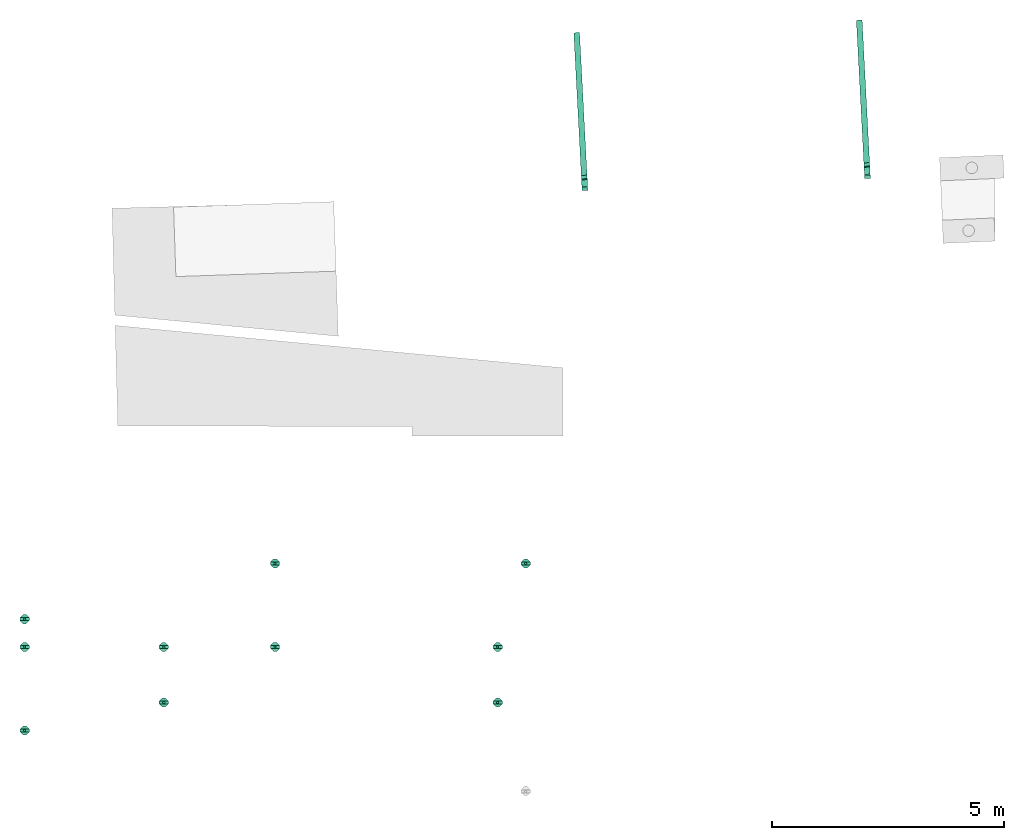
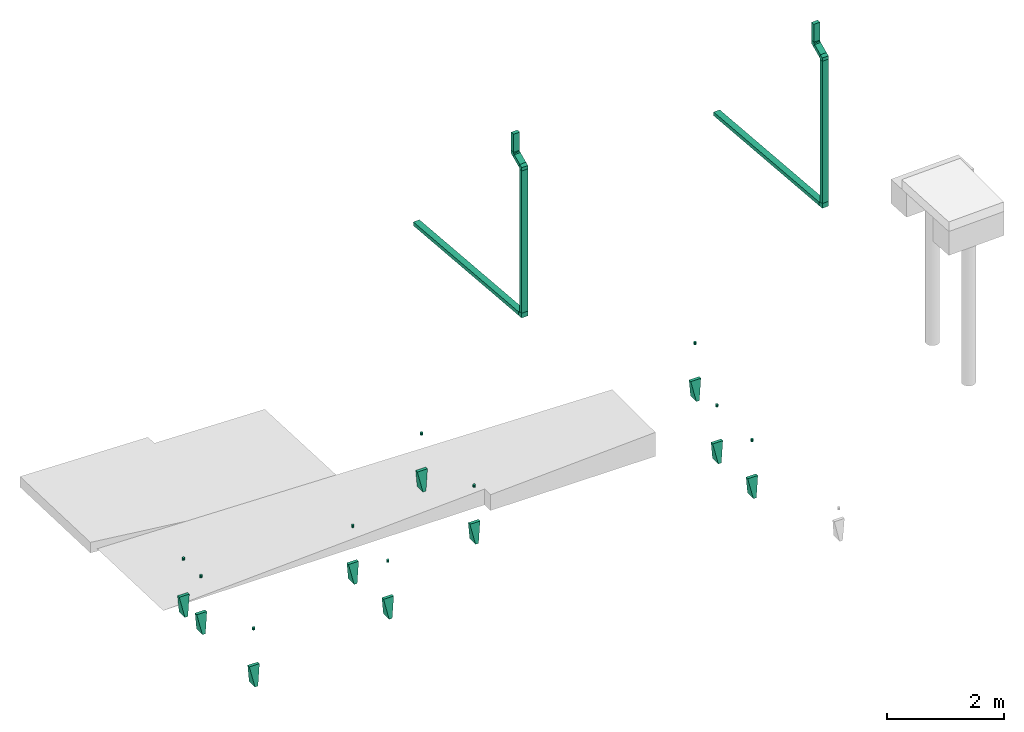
# One storey, part 3 of 4: 10 flow terminals, 8 flow segments, 6 flow fittings.
"""IFC2X3 building model written with IfcOpenShell, lengths in metres."""

from ifc_helpers import new_model, entity, si_unit, converted_unit, derived_unit, direction, frame, frame_2d, origin, origin_2d_with_axis, place, context, subcontext, project, spatial, polyline, rectangle, outline, extrude, faceted_brep, source, transform, mapped, material, type_object, type_shapes, element, save


model = new_model("IFC2X3")

# Units and contexts
model_context = context("Model", 3, precision=1e-05, world=origin(), true_north=direction((6.123031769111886e-17, 1.0)))
body_context = subcontext(model_context, "Body", "Model", "MODEL_VIEW")
ifc_project = project(units=[si_unit("LENGTHUNIT", "METRE"), si_unit("AREAUNIT", "SQUARE_METRE"), converted_unit("PLANEANGLEUNIT", "DEGREE", entity("IfcPlaneAngleMeasure", 0.017453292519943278), si_unit("PLANEANGLEUNIT", "RADIAN"), dimensions=[0, 0, 0, 0, 0, 0, 0]), derived_unit("THERMALTRANSMITTANCEUNIT", [(si_unit("MASSUNIT", "GRAM", prefix="KILO"), 1), (si_unit("THERMODYNAMICTEMPERATUREUNIT", "KELVIN"), -1), (si_unit("TIMEUNIT", "SECOND"), -3)])], contexts=[model_context])

# Site, building, storey
site_placement = place(None, origin())
site = spatial("IfcSite", under=ifc_project, at=site_placement, Name="Default", CompositionType="ELEMENT")
building_placement = place(site_placement, origin())
building = spatial("IfcBuilding", under=site, at=building_placement, CompositionType="ELEMENT")
storey_placement = place(building_placement, frame((0.0, 0.0, -4.0)))
storey = spatial("IfcBuildingStorey", under=building, at=storey_placement, Name="Fondations", CompositionType="ELEMENT", Elevation=-3.999999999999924)

# Flow terminals
ifc_material_1 = material(Name="ARC - Eq Elec - Blanc")
light_fixture_type = type_object("IfcLightFixtureType", Name="Eq_Elec_Luminaire_Trapezoïdal_LED_Suspension:Eq_Elec_Luminaire_Trapezoïdal_LED_Suspension_200x60mm", PredefinedType="NOTDEFINED", material=ifc_material_1)
shared_shape_1 = source(origin(), body_context, "Body", "Brep", [
    faceted_brep([(0.09500000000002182, -0.02500000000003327, 0.7900000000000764), (-0.09499999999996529, -0.025000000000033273, 0.7900000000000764), (-0.02499999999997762, -0.09500000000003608, 1.1800000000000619), (0.025000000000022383, -0.09500000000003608, 1.1800000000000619), (-0.09499999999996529, 0.02499999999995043, 0.7900000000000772), (-0.024999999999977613, 0.09499999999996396, 1.1800000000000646), (0.1000000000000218, 0.029999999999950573, 0.7800000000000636), (0.1000000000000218, -0.03000000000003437, 0.7800000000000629), (-0.09999999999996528, -0.03000000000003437, 0.7800000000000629), (-0.09999999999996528, 0.029999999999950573, 0.7800000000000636), (0.025000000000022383, 0.09499999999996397, 1.1800000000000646), (0.03000000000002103, 0.09999999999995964, 1.1800000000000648), (-0.029999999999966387, 0.09999999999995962, 1.1800000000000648), (-0.029999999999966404, -0.10000000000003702, 1.180000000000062), (0.03000000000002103, -0.10000000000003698, 1.1800000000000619), (0.09500000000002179, 0.02499999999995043, 0.7900000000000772)], [[[0, 1, 2, 3]], [[1, 4, 5, 2]], [[6, 7, 8, 9]], [[2, 5, 10, 3], [11, 12, 13, 14]], [[12, 11, 6, 9]], [[13, 12, 9, 8]], [[14, 13, 8, 7]], [[11, 14, 7, 6]], [[4, 1, 0, 15]], [[15, 0, 3, 10]], [[4, 15, 10, 5]]], outer=[[True], [True], [True], [False, True], [True], [True], [True], [True], [True], [True], [True]]),
    faceted_brep([(0.0, 0.0, 0.050000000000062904), (-0.007725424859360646, 0.02377641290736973, 0.05000000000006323), (-0.013975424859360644, 0.019235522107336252, 0.05000000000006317), (-0.020225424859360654, 0.01469463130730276, 0.050000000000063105), (-0.022612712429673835, 0.007347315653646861, 0.05000000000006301), (-0.02499999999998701, 0.0, 0.050000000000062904), (-0.022684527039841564, -0.007126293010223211, 0.050000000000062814), (0.0, 0.023776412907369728, 0.05000000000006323), (0.007725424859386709, 0.023776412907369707, 0.05000000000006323), (0.013975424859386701, 0.0192355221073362, 0.05000000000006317), (0.02022542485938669, 0.014694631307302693, 0.050000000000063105), (0.022612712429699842, 0.007347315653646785, 0.05000000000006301), (0.025000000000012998, 0.0, 0.050000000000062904), (-0.020225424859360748, -0.014694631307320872, 0.0500000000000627), (-0.013975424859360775, -0.0192355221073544, 0.05000000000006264), (-0.007725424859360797, -0.023776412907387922, 0.05000000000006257), (0.0, -0.023776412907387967, 0.05000000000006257), (0.02261271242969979, -0.007347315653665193, 0.0500000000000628), (0.020225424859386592, -0.014694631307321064, 0.0500000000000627), (0.013975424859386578, -0.019235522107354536, 0.05000000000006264), (0.007725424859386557, -0.023776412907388, 0.05000000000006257), (0.0, 0.0, 0.0), (-0.020225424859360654, 0.01469463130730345, 0.0), (-0.013975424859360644, 0.019235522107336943, 0.0), (-0.007725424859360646, 0.023776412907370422, 0.0), (0.0, 0.023776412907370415, 0.0), (-0.02268452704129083, 0.007126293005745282, 0.0), (-0.02499999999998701, 0.0, 0.0), (0.007725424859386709, 0.023776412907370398, 0.0), (0.013975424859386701, 0.01923552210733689, 0.0), (0.02022542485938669, 0.014694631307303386, 0.0), (0.022612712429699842, 0.007347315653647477, 0.0), (0.025000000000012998, 0.0, 0.0), (0.022684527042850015, -0.007126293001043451, 0.0), (-0.022612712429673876, -0.007347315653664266, 0.0), (-0.020225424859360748, -0.01469463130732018, 0.0), (-0.013975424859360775, -0.019235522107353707, 0.0), (-0.007725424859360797, -0.02377641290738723, 0.0), (0.020225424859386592, -0.014694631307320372, 0.0), (0.013975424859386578, -0.019235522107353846, 0.0), (0.007725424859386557, -0.023776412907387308, 0.0), (0.0, -0.023776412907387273, 0.0)], [[[0, 1, 2]], [[0, 2, 3]], [[0, 3, 4]], [[0, 4, 5]], [[0, 5, 6]], [[0, 7, 1]], [[0, 8, 7]], [[0, 9, 8]], [[0, 10, 9]], [[0, 11, 10]], [[0, 12, 11]], [[0, 6, 13]], [[0, 13, 14]], [[0, 14, 15]], [[0, 15, 16]], [[0, 17, 12]], [[0, 18, 17]], [[0, 19, 18]], [[0, 20, 19]], [[0, 16, 20]], [[21, 22, 23]], [[21, 23, 24]], [[21, 24, 25]], [[21, 26, 22]], [[21, 27, 26]], [[21, 25, 28]], [[21, 28, 29]], [[21, 29, 30]], [[21, 30, 31]], [[21, 31, 32]], [[21, 32, 33]], [[21, 34, 27]], [[21, 35, 34]], [[21, 36, 35]], [[21, 37, 36]], [[21, 33, 38]], [[21, 38, 39]], [[21, 39, 40]], [[21, 40, 41]], [[21, 41, 37]], [[8, 9, 10, 30, 29, 28]], [[12, 32, 31, 30, 10, 11]], [[1, 7, 8, 28, 25, 24]], [[4, 3, 22, 26, 27, 5]], [[24, 23, 22, 3, 2, 1]], [[13, 6, 5, 27, 34, 35]], [[33, 32, 12, 17, 18, 38]], [[35, 36, 37, 15, 14, 13]], [[20, 16, 15, 37, 41, 40]], [[40, 39, 38, 18, 19, 20]]]),
])
type_shapes(light_fixture_type, [shared_shape_1])
for number, where, z_axis, x_axis in (
    (1, (12.999283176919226, 139.39021605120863, 7.840000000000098), (0.0, 0.0, -1.0), (1.0, 0.0, 0.0)),
    (2, (12.999283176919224, 140.5902160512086, 7.840000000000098), (0.0, 0.0, -1.0), (1.0, 0.0, 0.0)),
    (3, (15.399283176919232, 140.5902160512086, 7.840000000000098), (0.0, 0.0, -1.0), (1.0, 0.0, 0.0)),
    (4, (15.399283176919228, 142.3902160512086, 7.840000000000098), (0.0, 0.0, -1.0), (1.0, 0.0, 0.0)),
    (5, (9.999283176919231, 140.5902160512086, 7.840000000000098), (0.0, 0.0, -1.0), (1.0, 0.0, 0.0)),
    (6, (9.999283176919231, 141.1902160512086, 7.840000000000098), (0.0, 0.0, -1.0), (1.0, 0.0, 0.0)),
    (7, (9.999283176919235, 138.7902160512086, 7.840000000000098), (0.0, 0.0, -1.0), (1.0, 0.0, 0.0)),
    (8, (20.19928317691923, 139.39021605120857, 7.840000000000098), (0.0, 0.0, -1.0), (1.0, 0.0, 0.0)),
    (9, (20.19928317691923, 140.59021605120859, 7.840000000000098), (0.0, 0.0, -1.0), (1.0, 0.0, 0.0)),
    (10, (20.80428317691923, 142.39021605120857, 7.840000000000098), (0.0, 0.0, -1.0), (1.0, 0.0, 0.0)),
):
    element("IfcFlowTerminal", number, at=place(storey_placement, frame(where, z_axis=z_axis, x_axis=x_axis)), inside=storey, type_object=light_fixture_type, material=ifc_material_1, Name="Eq_Elec_Luminaire_Trapezoïdal_LED_Suspension:Eq_Elec_Luminaire_Trapezoïdal_LED_Suspension_200x60mm", ObjectType="Eq_Elec_Luminaire_Trapezoïdal_LED_Suspension:Eq_Elec_Luminaire_Trapezoïdal_LED_Suspension_200x60mm", context=body_context, shape_type="MappedRepresentation", body=[
        mapped(shared_shape_1, transform((0.0, 0.0, 0.0), scale=1.0)),
    ])

# Flow segments
duct_segment_type = type_object("IfcDuctSegmentType", Name="Gaine rectangulaire:Raccord avec té et coude droit", PredefinedType="NOTDEFINED")
flow_segment_1_placement = place(storey_placement, origin())
element("IfcFlowSegment", 11, at=flow_segment_1_placement, inside=storey, type_object=duct_segment_type, Name="Gaine rectangulaire:Raccord avec té et coude droit", ObjectType="Gaine rectangulaire:Raccord avec té et coude droit", context=body_context, shape_type="SweptSolid", body=[
    extrude(rectangle(XDim=0.12499999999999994, YDim=0.07499999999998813, at=frame_2d((4.322930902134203e-15, -2.255140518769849e-16), x_axis=(1.0, 0.0))), frame((28.174493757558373, 150.73173420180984, 3.1329265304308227), z_axis=(0.0, 0.0, 1.0), x_axis=(-0.9986305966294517, -0.05231569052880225, 0.0)), (0.0, 0.0, 1.0), 2.974198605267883),
])
flow_segment_2_placement = place(storey_placement, origin())
element("IfcFlowSegment", 12, at=flow_segment_2_placement, inside=storey, type_object=duct_segment_type, Name="Gaine rectangulaire:Raccord avec té et coude droit", ObjectType="Gaine rectangulaire:Raccord avec té et coude droit", context=body_context, shape_type="SweptSolid", body=[
    extrude(rectangle(XDim=0.07499999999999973, YDim=0.12499999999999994, at=frame_2d((2.42861286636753e-16, 4.544975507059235e-16), x_axis=(1.0, 0.0))), frame((28.171263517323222, 150.79339479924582, 3.0699341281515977), z_axis=(-0.052305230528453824, 0.9984309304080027, -0.019996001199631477), x_axis=(-0.0010461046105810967, 0.01996861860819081, 0.9998000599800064)), (0.0, 0.0, 1.0), 3.318242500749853),
])
flow_segment_3_placement = place(storey_placement, origin())
element("IfcFlowSegment", 13, at=flow_segment_3_placement, inside=storey, type_object=duct_segment_type, Name="Gaine rectangulaire:Raccord avec té et coude droit", ObjectType="Gaine rectangulaire:Raccord avec té et coude droit", context=body_context, shape_type="SweptSolid", body=[
    extrude(rectangle(XDim=0.07499999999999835, YDim=0.12500000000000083, at=frame_2d((6.22071838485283e-15, -4.322930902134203e-15), x_axis=(1.0, 0.0))), frame((28.172380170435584, 150.7720795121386, 6.177101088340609), z_axis=(-0.0453067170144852, 0.8648394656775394, 0.49999999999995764), x_axis=(0.02615784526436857, -0.49931529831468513, 0.8660254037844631)), (0.0, 0.0, 1.0), 0.21051653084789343),
])
flow_segment_4_placement = place(storey_placement, origin())
element("IfcFlowSegment", 14, at=flow_segment_4_placement, inside=storey, type_object=duct_segment_type, Name="Gaine rectangulaire:Raccord avec té et coude droit", ObjectType="Gaine rectangulaire:Raccord avec té et coude droit", context=body_context, shape_type="SweptSolid", body=[
    extrude(rectangle(XDim=0.07499999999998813, YDim=0.12499999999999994, at=frame_2d((-2.255140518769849e-16, -4.326400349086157e-15), x_axis=(1.0, 0.0))), frame((28.16072877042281, 150.9944878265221, 6.352335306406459), z_axis=(0.0, 0.0, 1.0), x_axis=(-0.0523156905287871, 0.9986305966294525, 0.0)), (0.0, 0.0, 1.0), 0.3733493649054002),
])
flow_segment_5_placement = place(storey_placement, origin())
element("IfcFlowSegment", 15, at=flow_segment_5_placement, inside=storey, type_object=duct_segment_type, Name="Gaine rectangulaire:Raccord avec té et coude droit", ObjectType="Gaine rectangulaire:Raccord avec té et coude droit", context=body_context, shape_type="SweptSolid", body=[
    extrude(rectangle(XDim=0.12500000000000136, YDim=0.07500000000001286, at=origin_2d_with_axis()), frame((22.08056977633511, 150.46882847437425, 3.1327750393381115), z_axis=(0.0, 0.0, 1.0), x_axis=(-0.9990706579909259, -0.04310244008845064, 0.0)), (0.0, 0.0, 1.0), 2.9743500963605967),
])
flow_segment_6_placement = place(storey_placement, origin())
element("IfcFlowSegment", 16, at=flow_segment_6_placement, inside=storey, type_object=duct_segment_type, Name="Gaine rectangulaire:Raccord avec té et coude droit", ObjectType="Gaine rectangulaire:Raccord avec té et coude droit", context=body_context, shape_type="SweptSolid", body=[
    extrude(rectangle(XDim=0.07499999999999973, YDim=0.12499999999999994, at=frame_2d((-2.42861286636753e-16, -4.544975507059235e-16), x_axis=(1.0, 0.0))), frame((22.077339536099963, 150.53048907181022, 3.0697826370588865), z_axis=(-0.052305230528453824, 0.9984309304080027, -0.019996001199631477), x_axis=(-0.0010461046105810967, 0.01996861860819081, 0.9998000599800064)), (0.0, 0.0, 1.0), 3.3106664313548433),
])
flow_segment_7_placement = place(storey_placement, origin())
element("IfcFlowSegment", 17, at=flow_segment_7_placement, inside=storey, type_object=duct_segment_type, Name="Gaine rectangulaire:Raccord avec té et coude droit", ObjectType="Gaine rectangulaire:Raccord avec té et coude droit", context=body_context, shape_type="SweptSolid", body=[
    extrude(rectangle(XDim=0.07500000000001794, YDim=0.12499999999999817, at=frame_2d((2.3592239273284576e-16, 0.0), x_axis=(1.0, 0.0))), frame((22.078828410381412, 150.50919156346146, 6.1771010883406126), z_axis=(-0.04530671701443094, 0.8648394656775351, 0.4999999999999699), x_axis=(-0.021552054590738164, 0.4995512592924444, -0.8660161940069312)), (0.0, 0.0, 1.0), 0.20177217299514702),
])
flow_segment_8_placement = place(storey_placement, origin())
element("IfcFlowSegment", 18, at=flow_segment_8_placement, inside=storey, type_object=duct_segment_type, Name="Gaine rectangulaire:Raccord avec té et coude droit", ObjectType="Gaine rectangulaire:Raccord avec té et coude droit", context=body_context, shape_type="SweptSolid", body=[
    extrude(rectangle(XDim=0.07499999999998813, YDim=0.12499999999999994, at=origin_2d_with_axis()), frame((22.067573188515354, 150.7240374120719, 6.3479631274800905), z_axis=(0.0, 0.0, 1.0), x_axis=(-0.0523156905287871, 0.9986305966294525, 0.0)), (0.0, 0.0, 1.0), 0.3777215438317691),
])

# Flow fittings
ifc_material_2 = material(Name="<Unnamed>")
duct_fitting_type_1 = type_object("IfcDuctFittingType", Name="Coude Rectangulaire Droit:Standard", PredefinedType="NOTDEFINED", material=ifc_material_2)
shared_shape_2 = source(origin(), body_context, "Body", "SweptSolid", [
    extrude(outline(polyline([(-0.038875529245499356, -0.050966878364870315), (0.029425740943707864, -0.050966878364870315), (0.06357637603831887, 0.008183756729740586), (-0.0013755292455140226, 0.045683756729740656), (-0.013875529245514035, 0.024033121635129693), (-0.038875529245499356, 0.024033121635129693), (-0.038875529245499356, -0.050966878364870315)])), frame((-0.007775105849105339, 0.013466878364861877, -0.06250000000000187)), (0.0, 0.0, 1.0), 0.125),
    extrude(outline(polyline([(-0.038875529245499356, -0.050966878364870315), (0.029425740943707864, -0.050966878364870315), (0.06357637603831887, 0.008183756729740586), (-0.0013755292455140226, 0.045683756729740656), (-0.013875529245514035, 0.024033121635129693), (-0.038875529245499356, 0.024033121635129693), (-0.038875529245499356, -0.050966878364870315)])), frame((-0.007775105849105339, 0.013466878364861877, -0.06250000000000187)), (0.0, 0.0, 1.0), 0.125),
    extrude(outline(polyline([(-0.038875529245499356, -0.050966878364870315), (0.029425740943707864, -0.050966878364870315), (0.06357637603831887, 0.008183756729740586), (-0.0013755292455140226, 0.045683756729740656), (-0.013875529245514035, 0.024033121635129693), (-0.038875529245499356, 0.024033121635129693), (-0.038875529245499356, -0.050966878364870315)])), frame((-0.007775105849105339, 0.013466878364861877, -0.06250000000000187)), (0.0, 0.0, 1.0), 0.125),
])
type_shapes(duct_fitting_type_1, [shared_shape_2])
for number, where, z_axis, x_axis, name in (
    (19, (28.174493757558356, 150.73173420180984, 6.153775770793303), (-0.9986305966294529, -0.05231569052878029, 0.0), (0.0, 0.0, 1.0), "Coude Rectangulaire Droit:Standard"),
    (20, (28.160728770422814, 150.99448782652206, 6.305684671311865), (0.9986305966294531, 0.05231569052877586, 0.0), (-0.04530671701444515, 0.8648394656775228, 0.4999999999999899), "Coude Rectangulaire Droit:Standard"),
    (21, (22.08056977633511, 150.46882847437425, 6.153775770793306), (-0.9990706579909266, -0.0431024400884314, 0.0), (0.0, 0.0, 1.0), "Coude Rectangulaire Droit:Standard"),
    (22, (22.067573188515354, 150.72403741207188, 6.301312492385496), (0.9986305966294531, 0.05231569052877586, 0.0), (-0.04530671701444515, 0.8648394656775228, 0.4999999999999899), "Coude Rectangulaire Droit:Standard"),
):
    element("IfcFlowFitting", number, at=place(storey_placement, frame(where, z_axis=z_axis, x_axis=x_axis)), inside=storey, type_object=duct_fitting_type_1, material=ifc_material_2, Name=name, ObjectType="Coude Rectangulaire Droit:Standard", context=body_context, shape_type="MappedRepresentation", body=[
        mapped(shared_shape_2, transform((0.0, 0.0, 0.0), scale=1.0)),
    ])
duct_fitting_type_2 = type_object("IfcDuctFittingType", Name="Coude Rectangulaire Droit:Standard", PredefinedType="NOTDEFINED", material=ifc_material_2)
shared_shape_3 = source(origin(), body_context, "Body", "SweptSolid", [
    extrude(outline(polyline([(-0.04158330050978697, -0.05808171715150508), (0.056931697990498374, -0.058081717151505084), (0.05890160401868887, 0.04041358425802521), (-0.016083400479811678, 0.04191328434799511), (-0.01658330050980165, 0.016918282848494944), (-0.04158330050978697, 0.016918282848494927), (-0.04158330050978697, -0.05808171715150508)])), frame((-0.020174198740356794, 0.020581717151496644, -0.06250000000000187)), (0.0, 0.0, 1.0), 0.125),
    extrude(outline(polyline([(-0.04158330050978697, -0.05808171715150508), (0.056931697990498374, -0.058081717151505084), (0.05890160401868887, 0.04041358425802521), (-0.016083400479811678, 0.04191328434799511), (-0.01658330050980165, 0.016918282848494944), (-0.04158330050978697, 0.016918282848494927), (-0.04158330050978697, -0.05808171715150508)])), frame((-0.020174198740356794, 0.020581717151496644, -0.06250000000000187)), (0.0, 0.0, 1.0), 0.125),
    extrude(outline(polyline([(-0.04158330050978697, -0.05808171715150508), (0.056931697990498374, -0.058081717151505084), (0.05890160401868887, 0.04041358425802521), (-0.016083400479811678, 0.04191328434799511), (-0.01658330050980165, 0.016918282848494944), (-0.04158330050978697, 0.016918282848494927), (-0.04158330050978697, -0.05808171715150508)])), frame((-0.020174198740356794, 0.020581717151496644, -0.06250000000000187)), (0.0, 0.0, 1.0), 0.125),
])
type_shapes(duct_fitting_type_2, [shared_shape_3])
for number, where, z_axis, x_axis, name in (
    (23, (28.17449375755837, 150.73173420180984, 3.0711690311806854), (0.9986305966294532, 0.052315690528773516, 0.0), (0.0, 0.0, -1.0), "Coude Rectangulaire Droit:Standard"),
    (24, (22.08056977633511, 150.46882847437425, 3.0710175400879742), (0.9986305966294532, 0.052315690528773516, 0.0), (0.0, 0.0, -1.0), "Coude Rectangulaire Droit:Standard"),
):
    element("IfcFlowFitting", number, at=place(storey_placement, frame(where, z_axis=z_axis, x_axis=x_axis)), inside=storey, type_object=duct_fitting_type_2, material=ifc_material_2, Name=name, ObjectType="Coude Rectangulaire Droit:Standard", context=body_context, shape_type="MappedRepresentation", body=[
        mapped(shared_shape_3, transform((0.0, 0.0, 0.0), scale=1.0)),
    ])

save(model, "model.ifc")
